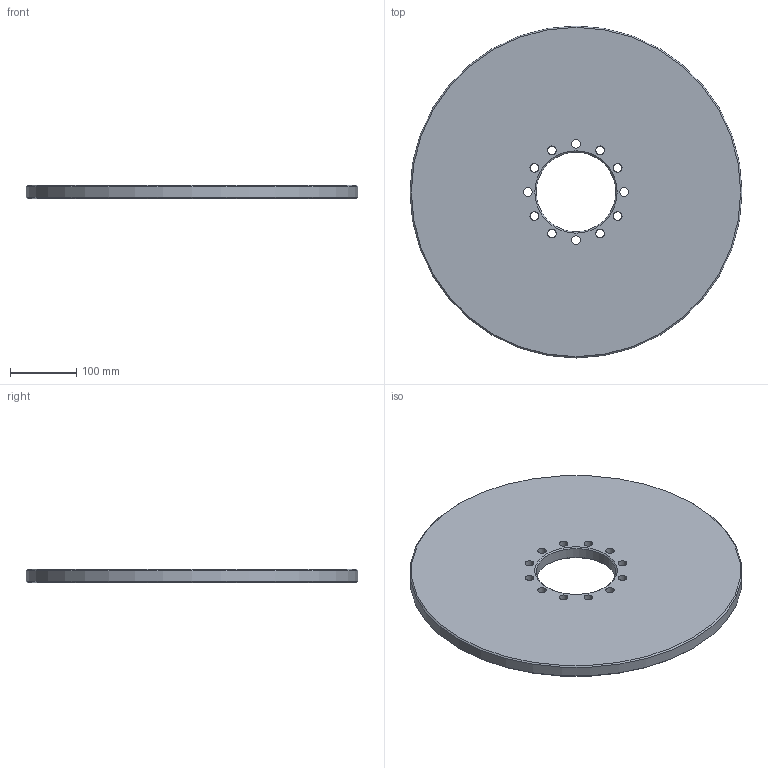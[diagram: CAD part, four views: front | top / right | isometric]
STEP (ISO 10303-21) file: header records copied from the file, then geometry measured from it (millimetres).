
FILE_DESCRIPTION(/* description */ (''),/* implementation_level */ '2;1');
FILE_NAME(/* name */ 'C:\Users\vlakrc01\Desktop\COUPLINGS\DISC\DISC 20 STEP\48474.stp',/* time_stamp */ '2017-03-15T14:21:00+01:00',/* author */ ('vlakrc01'),/* organization */ ('Hillmar Industries Ltd.'),/* preprocessor_version */ 'ST-DEVELOPER v16.1',/* originating_system */ 'Autodesk Inventor 2016',/* authorisation */ '');
FILE_SCHEMA (('AUTOMOTIVE_DESIGN { 1 0 10303 214 3 1 1 }'));
Length unit declared in the file: millimetre
Products named in the file (1): 48474
Bounding box: 500 x 500 x 20 mm (x, y, z)
Volume: 3661149.2 mm3; surface area: 411087.6 mm2
Topology: 1 solids, 1 shells, 20 faces, 63 edges, 45 vertices
Faces by surface type: cylinder 14, cone 4, plane 2
Full cylindrical faces by diameter (mm): 13 x12, 120 x1, 500 x1
Entity records: 600 total; most frequent: DIRECTION 106, CARTESIAN_POINT 85, EDGE_LOOP 64, ORIENTED_EDGE 64, AXIS2_PLACEMENT_3D 53, FACE_BOUND 44, CIRCLE 32, VERTEX_POINT 32
